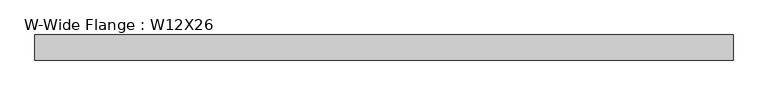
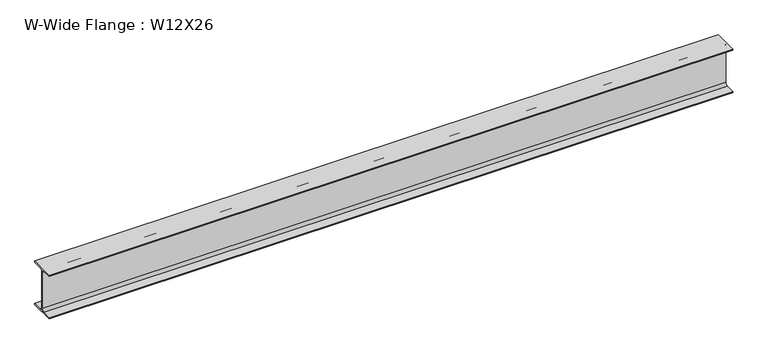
"""IFC4 building model written with IfcOpenShell, lengths in millimetres: beam geometry, W-Wide Flange : W12X26."""

from ifc_helpers import new_model, si_unit, point, frame, frame_2d, origin, place, context, project, spatial, polyline, circle_curve, trimmed, segment, composite_curve, outline, extrude, source, transform, mapped, element, save


def w_wide_flange_w12x26_de92a1e1(model_context):
    return source(origin(), model_context, "Body", "SweptSolid", [
        extrude(outline(composite_curve([segment(polyline([(82.4011719, -145.5539063), (82.4011719, -155.178125), (-82.4011719, -155.178125), (-82.4011719, -145.5539063), (-20.2902344, -145.5539063)]), True, "CONTINUOUS"), segment(trimmed(circle_curve(frame_2d((-20.2902344, -128.190625)), 17.3632812), [point((-20.2902344, -145.5539063))], [point((-2.9269531, -128.190625))], True, "CARTESIAN"), True, "CONTINUOUS"), segment(polyline([(-2.9269531, -128.190625), (-2.9269531, 128.190625)]), True, "CONTINUOUS"), segment(trimmed(circle_curve(frame_2d((-20.2902344, 128.190625)), 17.3632812), [point((-2.9269531, 128.190625))], [point((-20.2902344, 145.5539062))], True, "CARTESIAN"), True, "CONTINUOUS"), segment(polyline([(-20.2902344, 145.5539062), (-82.4011719, 145.5539062), (-82.4011719, 155.178125), (82.4011719, 155.178125), (82.4011719, 145.5539062), (20.2902344, 145.5539062)]), True, "CONTINUOUS"), segment(trimmed(circle_curve(frame_2d((20.2902344, 128.190625)), 17.3632812), [point((20.2902344, 145.5539062))], [point((2.9269531, 128.190625))], True, "CARTESIAN"), True, "CONTINUOUS"), segment(polyline([(2.9269531, 128.190625), (2.9269531, -128.190625)]), True, "CONTINUOUS"), segment(trimmed(circle_curve(frame_2d((20.2902344, -128.190625)), 17.3632812), [point((2.9269531, -128.190625))], [point((20.2902344, -145.5539063))], True, "CARTESIAN"), True, "CONTINUOUS"), segment(polyline([(20.2902344, -145.5539063), (82.4011719, -145.5539063)]), True, "CONTINUOUS")], self_intersect=False)), frame((-2259.5502259, 0.0, 0.0), z_axis=(1.0, 0.0, 0.0), x_axis=(0.0, 1.0, 0.0)), (0.0, 0.0, 1.0), 4573.5142917),
    ])


if __name__ == "__main__":
    model = new_model("IFC4")
    model_context = context("Model", 3, world=origin())
    ifc_project = project(units=[si_unit("LENGTHUNIT", "METRE", prefix="MILLI")], contexts=[model_context])
    site = spatial("IfcSite", under=ifc_project)
    building = spatial("IfcBuilding", under=site)
    placement = place(None, origin())
    w_wide_flange_w12x26_shape = w_wide_flange_w12x26_de92a1e1(model_context)
    element("IfcBeam", 1, ObjectType="W-Wide Flange : W12X26", at=placement, inside=building, context=model_context, shape_type="MappedRepresentation", body=[
        mapped(w_wide_flange_w12x26_shape, transform((0.0, 0.0, 0.0), x_axis=(1.0, 0.0, 0.0), y_axis=(0.0, 1.0, 0.0), z_axis=(0.0, 0.0, 1.0))),
    ])
    save(model, "model.ifc")
